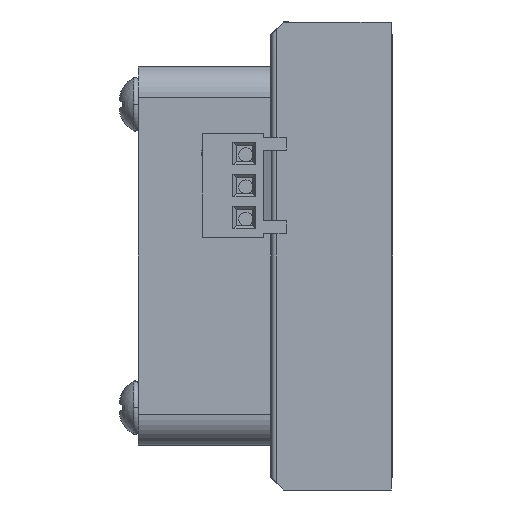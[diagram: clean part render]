
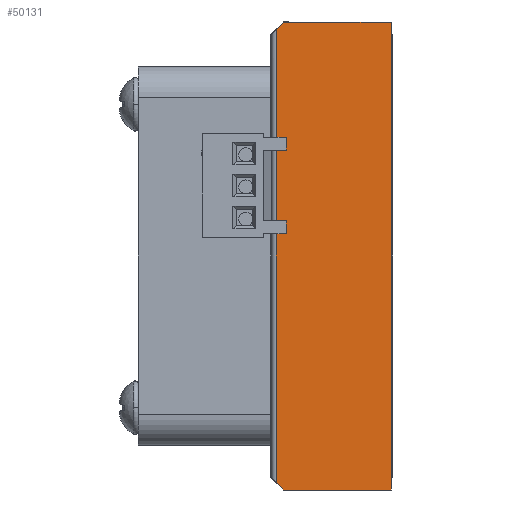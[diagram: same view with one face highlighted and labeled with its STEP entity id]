
A CAD part, left-side view. The second image highlights one B-rep face of the part: STEP entity #50131.
In plain terms, the highlighted planar face has unit normal (-1, 0, 0).
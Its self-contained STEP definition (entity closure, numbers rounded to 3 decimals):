
#490 = CARTESIAN_POINT ( 'NONE',  ( -26.787, -16.777, 61.305 ) ) ;
#1029 = DIRECTION ( 'NONE',  ( 0., 0., -1. ) ) ;
#5017 = LINE ( 'NONE', #36688, #5680 ) ;
#5680 = VECTOR ( 'NONE', #57514, 1000. ) ;
#6329 = VERTEX_POINT ( 'NONE', #40477 ) ;
#8925 = ORIENTED_EDGE ( 'NONE', *, *, #67590, .F. ) ;
#11118 = VERTEX_POINT ( 'NONE', #63285 ) ;
#11379 = ORIENTED_EDGE ( 'NONE', *, *, #38098, .F. ) ;
#14049 = EDGE_CURVE ( 'NONE', #11118, #58394, #36400, .T. ) ;
#15626 = CARTESIAN_POINT ( 'NONE',  ( -26.787, -25.872, 61.305 ) ) ;
#16177 = PLANE ( 'NONE',  #52076 ) ;
#19840 = DIRECTION ( 'NONE',  ( 0., 0., 1. ) ) ;
#19903 = CARTESIAN_POINT ( 'NONE',  ( -26.787, -17.372, 61.305 ) ) ;
#21342 = FACE_OUTER_BOUND ( 'NONE', #28116, .T. ) ;
#22258 = ORIENTED_EDGE ( 'NONE', *, *, #14049, .F. ) ;
#24045 = ORIENTED_EDGE ( 'NONE', *, *, #26084, .F. ) ;
#25702 = EDGE_CURVE ( 'NONE', #11118, #33182, #26582, .T. ) ;
#26084 = EDGE_CURVE ( 'NONE', #54517, #6329, #5017, .T. ) ;
#26122 = VECTOR ( 'NONE', #46950, 1000. ) ;
#26582 = LINE ( 'NONE', #37859, #56081 ) ;
#28116 = EDGE_LOOP ( 'NONE', ( #24045, #11379, #8925, #22258, #39588, #32549 ) ) ;
#32549 = ORIENTED_EDGE ( 'NONE', *, *, #38439, .T. ) ;
#32949 = VECTOR ( 'NONE', #34973, 1000. ) ;
#33182 = VERTEX_POINT ( 'NONE', #15626 ) ;
#34973 = DIRECTION ( 'NONE',  ( 0., -0.707, 0.707 ) ) ;
#36400 = LINE ( 'NONE', #19903, #26122 ) ;
#36688 = CARTESIAN_POINT ( 'NONE',  ( -26.787, -24.172, 98.305 ) ) ;
#37859 = CARTESIAN_POINT ( 'NONE',  ( -26.787, -24.172, 61.305 ) ) ;
#38098 = EDGE_CURVE ( 'NONE', #43870, #54517, #38181, .T. ) ;
#38181 = LINE ( 'NONE', #43285, #32949 ) ;
#38439 = EDGE_CURVE ( 'NONE', #33182, #6329, #46204, .T. ) ;
#38618 = CARTESIAN_POINT ( 'NONE',  ( -26.787, -16.777, 97.71 ) ) ;
#39588 = ORIENTED_EDGE ( 'NONE', *, *, #25702, .T. ) ;
#40477 = CARTESIAN_POINT ( 'NONE',  ( -26.787, -25.872, 98.305 ) ) ;
#41630 = DIRECTION ( 'NONE',  ( 0., -1., 0. ) ) ;
#41940 = CARTESIAN_POINT ( 'NONE',  ( -26.787, -24.172, 61.305 ) ) ;
#43285 = CARTESIAN_POINT ( 'NONE',  ( -26.787, -17.372, 98.305 ) ) ;
#43870 = VERTEX_POINT ( 'NONE', #38618 ) ;
#44591 = CARTESIAN_POINT ( 'NONE',  ( -26.787, -17.372, 98.305 ) ) ;
#46204 = LINE ( 'NONE', #46542, #63588 ) ;
#46542 = CARTESIAN_POINT ( 'NONE',  ( -26.787, -25.872, 61.305 ) ) ;
#46950 = DIRECTION ( 'NONE',  ( 0., 0.707, 0.707 ) ) ;
#47028 = DIRECTION ( 'NONE',  ( 1., 0., 0. ) ) ;
#47503 = LINE ( 'NONE', #490, #60296 ) ;
#50131 = ADVANCED_FACE ( 'NONE', ( #21342 ), #16177, .F. ) ;
#52076 = AXIS2_PLACEMENT_3D ( 'NONE', #41940, #47028, #1029 ) ;
#52978 = DIRECTION ( 'NONE',  ( 0., 0., 1. ) ) ;
#54517 = VERTEX_POINT ( 'NONE', #44591 ) ;
#55047 = CARTESIAN_POINT ( 'NONE',  ( -26.787, -16.777, 61.9 ) ) ;
#56081 = VECTOR ( 'NONE', #41630, 1000. ) ;
#57514 = DIRECTION ( 'NONE',  ( 0., -1., 0. ) ) ;
#58394 = VERTEX_POINT ( 'NONE', #55047 ) ;
#60296 = VECTOR ( 'NONE', #52978, 1000. ) ;
#63285 = CARTESIAN_POINT ( 'NONE',  ( -26.787, -17.372, 61.305 ) ) ;
#63588 = VECTOR ( 'NONE', #19840, 1000. ) ;
#67590 = EDGE_CURVE ( 'NONE', #58394, #43870, #47503, .T. ) ;
